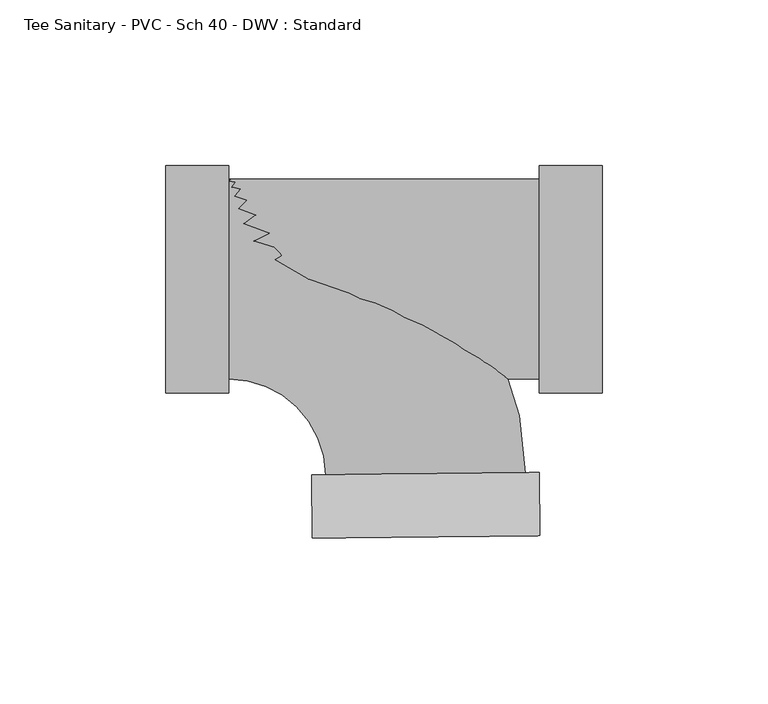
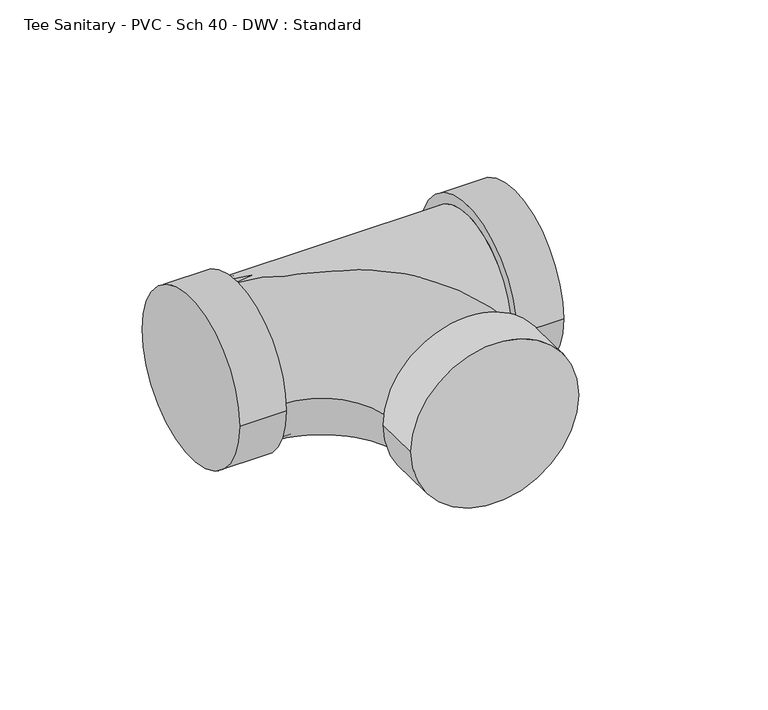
"""IFC4 building model written with IfcOpenShell, lengths in millimetres: pipe fitting geometry, Tee Sanitary - PVC - Sch 40 - DWV : Standard."""

from ifc_helpers import new_model, si_unit, point, frame, origin, place, context, project, spatial, circle_curve, ellipse_curve, trimmed, source, transform, mapped, element, save
from ifc_brep_helpers import plane_surface, cylinder_surface, revolved_surface, advanced_brep


def tee_sanitary_pvc_sch_40_dwv_standard_21fefaed(model_context):
    return source(origin(), model_context, "Body", "AdvancedBrep", [
        advanced_brep(
        [(-58.7502, -30.1625, 0.0), (-58.7502, 30.1625, 0.0), (-29.5489157, -59.0611885, 0.0), (30.7728118, -58.4328372, 0.0), (35.1239132, -77.4385467, 0.0), (-33.5031636, -78.1534121, 0.0), (34.9254865, -58.3895802, 0.0), (-33.7015904, -59.1044455, 0.0)],
        [
            (0, 1, circle_curve(frame((-58.7502, 0.0, 0.0), z_axis=(-1.0, 0.0, 0.0), x_axis=(0.0, 1.0, 0.0)), 30.1625)),
            (1, 0, circle_curve(frame((-58.7502, 0.0, 0.0), z_axis=(-1.0, 0.0, 0.0), x_axis=(0.0, 1.0, 0.0)), 30.1625)),
            (0, 2, circle_curve(frame((-58.7502, -59.3653686, 0.0), z_axis=(0.0, 0.0, -1.0), x_axis=(0.0, 1.0, 0.0)), 29.2028686)),
            (2, 3, circle_curve(frame((0.6119481, -58.7470129, 0.0), z_axis=(-0.010416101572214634, 0.9999457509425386, 0.0), x_axis=(0.9999457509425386, 0.010416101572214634, 0.0)), 30.1625)),
            (3, 1, circle_curve(frame((-58.7502, -59.3653686, 0.0), z_axis=(0.0, 0.0, 1.0), x_axis=(0.0, 1.0, 0.0)), 89.5278686)),
            (3, 2, circle_curve(frame((0.6119481, -58.7470129, 0.0), z_axis=(-0.010416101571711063, 0.9999457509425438, 0.0), x_axis=(0.9999457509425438, 0.010416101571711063, 0.0)), 30.1625)),
            (4, 5, circle_curve(frame((0.8103748, -77.7959794, 0.0), z_axis=(0.010416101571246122, -0.9999457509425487, 0.0), x_axis=(-0.9999457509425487, -0.010416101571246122, 0.0)), 34.3154)),
            (5, 4, circle_curve(frame((0.8103748, -77.7959794, 0.0), z_axis=(0.010416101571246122, -0.9999457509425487, 0.0), x_axis=(-0.9999457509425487, -0.010416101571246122, 0.0)), 34.3154)),
            (6, 7, circle_curve(frame((0.6119481, -58.7470129, 0.0), z_axis=(-0.010416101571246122, 0.9999457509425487, 0.0), x_axis=(-0.9999457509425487, -0.010416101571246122, 0.0)), 34.3154)),
            (7, 6, circle_curve(frame((0.6119481, -58.7470129, 0.0), z_axis=(-0.010416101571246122, 0.9999457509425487, 0.0), x_axis=(-0.9999457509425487, -0.010416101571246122, 0.0)), 34.3154)),
            (4, 6),
            (7, 5),
        ],
        [
            plane_surface(frame((-58.7502, 0.0, 0.0), z_axis=(-1.0, 0.0, 0.0), x_axis=(0.0, 0.0, 1.0))),
            revolved_surface(trimmed(ellipse_curve(frame((-58.7502, 0.0, 0.0), z_axis=(-1.0, 0.0, 0.0), x_axis=(0.0, 1.0, 0.0)), 30.1625, 30.1625), [point((-58.7502, -30.1625, 0.0))], [point((-58.7502, 30.1625, 0.0))], True, "CARTESIAN"), (-58.7502, -59.3653686, 0.0), (0.0, 0.0, -1.0)),
            revolved_surface(trimmed(ellipse_curve(frame((-58.7502, 0.0, 0.0), z_axis=(-1.0, 0.0, 0.0), x_axis=(0.0, 1.0, 0.0)), 30.1625, 30.1625), [point((-58.7502, 30.1625, 0.0))], [point((-58.7502, -30.1625, 0.0))], True, "CARTESIAN"), (-58.7502, -59.3653686, 0.0), (0.0, 0.0, -1.0)),
            plane_surface(frame((0.8103748, -77.7959794, 0.0), z_axis=(0.010416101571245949, -0.9999457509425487, 0.0), x_axis=(0.0, 0.0, 1.0))),
            plane_surface(frame((0.6119481, -58.7470129, 0.0), z_axis=(-0.010416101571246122, 0.9999457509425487, 0.0), x_axis=(0.0, 0.0, 1.0))),
            cylinder_surface(frame((0.8103748, -77.7959794, 0.0), z_axis=(0.010416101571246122, -0.9999457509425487, 0.0), x_axis=(-0.9999457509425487, -0.010416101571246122, 0.0)), 34.3154),
        ],
        [
            (0, [[1, 2]]),
            (1, [[-1, 3, 4, 5]]),
            (2, [[-2, -5, 6, -3]]),
            (3, [[7, 8]]),
            (4, [[9, 10], [-4, -6]]),
            (5, [[-7, 11, -10, 12]]),
            (5, [[-8, -12, -9, -11]]),
        ],
    ),
        advanced_brep(
        [(-58.7502, -30.1625, 0.0), (34.9254865, -30.1625, 0.0), (34.9254865, 30.1625, 0.0), (-58.7502, 30.1625, 0.0), (34.9254865, -34.3154, 0.0), (34.9254865, 34.3154, 0.0), (53.9754865, -34.3154, 0.0), (53.9754865, 34.3154, 0.0), (-77.8002, -34.3154, 0.0), (-77.8002, 34.3154, 0.0), (-58.7502, -34.3154, 0.0), (-58.7502, 34.3154, 0.0)],
        [
            (0, 1),
            (1, 2, circle_curve(frame((34.9254865, 0.0, 0.0), z_axis=(-1.0, 0.0, 0.0), x_axis=(0.0, 1.0, 0.0)), 30.1625)),
            (2, 3),
            (3, 0, circle_curve(frame((-58.7502, 0.0, 0.0), z_axis=(1.0, 0.0, 0.0), x_axis=(0.0, 1.0, 0.0)), 30.1625)),
            (0, 3, circle_curve(frame((-58.7502, 0.0, 0.0), z_axis=(1.0, 0.0, 0.0), x_axis=(0.0, 1.0, 0.0)), 30.1625)),
            (2, 1, circle_curve(frame((34.9254865, 0.0, 0.0), z_axis=(-1.0, 0.0, 0.0), x_axis=(0.0, 1.0, 0.0)), 30.1625)),
            (4, 5, circle_curve(frame((34.9254865, 0.0, 0.0), z_axis=(-1.0, 0.0, 0.0), x_axis=(0.0, 1.0, 0.0)), 34.3154)),
            (5, 4, circle_curve(frame((34.9254865, 0.0, 0.0), z_axis=(-1.0, 0.0, 0.0), x_axis=(0.0, 1.0, 0.0)), 34.3154)),
            (6, 7, circle_curve(frame((53.9754865, 0.0, 0.0), z_axis=(1.0, 0.0, 0.0), x_axis=(0.0, 1.0, 0.0)), 34.3154)),
            (7, 6, circle_curve(frame((53.9754865, 0.0, 0.0), z_axis=(1.0, 0.0, 0.0), x_axis=(0.0, 1.0, 0.0)), 34.3154)),
            (4, 6),
            (7, 5),
            (8, 9, circle_curve(frame((-77.8002, 0.0, 0.0), z_axis=(-1.0, 0.0, 0.0), x_axis=(0.0, 1.0, 0.0)), 34.3154)),
            (9, 8, circle_curve(frame((-77.8002, 0.0, 0.0), z_axis=(-1.0, 0.0, 0.0), x_axis=(0.0, 1.0, 0.0)), 34.3154)),
            (10, 11, circle_curve(frame((-58.7502, 0.0, 0.0), z_axis=(1.0, 0.0, 0.0), x_axis=(0.0, 1.0, 0.0)), 34.3154)),
            (11, 10, circle_curve(frame((-58.7502, 0.0, 0.0), z_axis=(1.0, 0.0, 0.0), x_axis=(0.0, 1.0, 0.0)), 34.3154)),
            (8, 10),
            (11, 9),
        ],
        [
            cylinder_surface(frame((-58.7502, 0.0, 0.0), z_axis=(-1.0, 0.0, 0.0), x_axis=(0.0, 1.0, 0.0)), 30.1625),
            plane_surface(frame((34.9254865, 0.0, 0.0), z_axis=(-1.0, 0.0, 0.0), x_axis=(0.0, 0.0, 1.0))),
            plane_surface(frame((53.9754865, 0.0, 0.0), z_axis=(1.0, 0.0, 0.0), x_axis=(0.0, 0.0, 1.0))),
            cylinder_surface(frame((34.9254865, 0.0, 0.0), z_axis=(-1.0, 0.0, 0.0), x_axis=(0.0, 1.0, 0.0)), 34.3154),
            plane_surface(frame((-77.8002, 0.0, 0.0), z_axis=(-1.0, 0.0, 0.0), x_axis=(0.0, 0.0, 1.0))),
            plane_surface(frame((-58.7502, 0.0, 0.0), z_axis=(1.0, 0.0, 0.0), x_axis=(0.0, 0.0, 1.0))),
            cylinder_surface(frame((-77.8002, 0.0, 0.0), z_axis=(-1.0, 0.0, 0.0), x_axis=(0.0, 1.0, 0.0)), 34.3154),
        ],
        [
            (0, [[1, 2, 3, 4]]),
            (0, [[-1, 5, -3, 6]]),
            (1, [[7, 8], [-2, -6]]),
            (2, [[9, 10]]),
            (3, [[-7, 11, -10, 12]]),
            (3, [[-8, -12, -9, -11]]),
            (4, [[13, 14]]),
            (5, [[15, 16], [-4, -5]]),
            (6, [[-13, 17, -16, 18]]),
            (6, [[-14, -18, -15, -17]]),
        ],
    ),
    ])


if __name__ == "__main__":
    model = new_model("IFC4")
    model_context = context("Model", 3, world=origin())
    ifc_project = project(units=[si_unit("LENGTHUNIT", "METRE", prefix="MILLI")], contexts=[model_context])
    site = spatial("IfcSite", under=ifc_project)
    building = spatial("IfcBuilding", under=site)
    placement = place(None, origin())
    tee_sanitary_pvc_sch_40_dwv_standard_shape = tee_sanitary_pvc_sch_40_dwv_standard_21fefaed(model_context)
    element("IfcPipeFitting", 1, ObjectType="Tee Sanitary - PVC - Sch 40 - DWV : Standard", at=placement, inside=building, context=model_context, shape_type="MappedRepresentation", body=[
        mapped(tee_sanitary_pvc_sch_40_dwv_standard_shape, transform((0.0, 0.0, 0.0), x_axis=(1.0, 0.0, 0.0), y_axis=(0.0, 1.0, 0.0), z_axis=(0.0, 0.0, 1.0))),
    ])
    save(model, "model.ifc")
